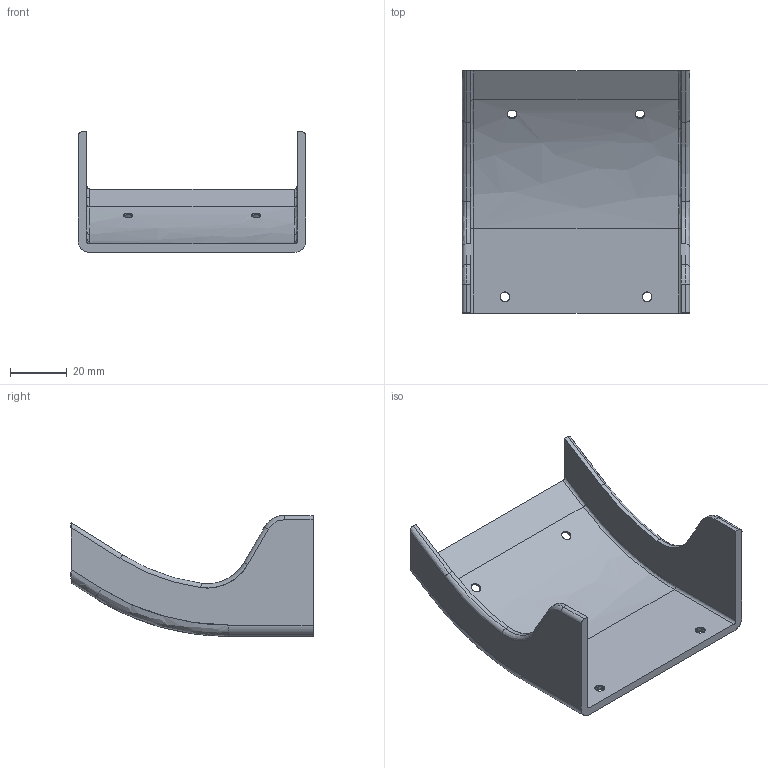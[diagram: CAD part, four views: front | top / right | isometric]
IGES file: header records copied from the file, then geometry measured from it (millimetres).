
Global section: file name: C:\Users\gehrichcr\Documents\1 Drive Backup\Practice\Inspire\V1.5\IGES\Canopy Top V1.5 Split A.igs; native system: NX V8.5; preprocessor: SIEMENS PLM Software NX 8.5; date: 20150619.111946; units: millimetre
Bounding box: 80 x 85.18 x 42.5 mm (x, y, z)
Surface area: 22850 mm2 (no closed solid volume)
Topology: 0 solids, 0 shells, 64 faces, 423 edges, 407 vertices
Faces by surface type: bspline 64
